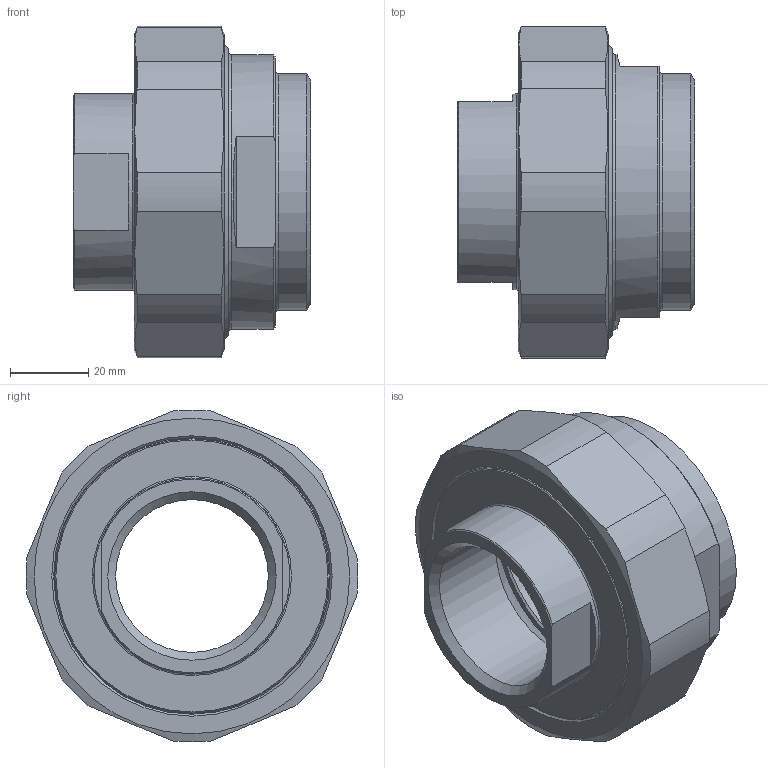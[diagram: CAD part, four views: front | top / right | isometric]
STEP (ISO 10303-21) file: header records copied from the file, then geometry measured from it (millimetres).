
FILE_DESCRIPTION(/* description */ (''),/* implementation_level */ '2;1');
FILE_NAME(/* name */ 'C:\Users\cad\Desktop\Zeichnungen neu von Ralph\Ganze Kupplungen\3D_Kupplung-R134-E-SG\3D_R134-E-SG-DN32-60.3_17101738.stp',/* time_stamp */ '2021-06-30T16:16:44+02:00',/* author */ ('cad'),/* organization */ (''),/* preprocessor_version */ 'ST-DEVELOPER v18.1',/* originating_system */ 'Autodesk Inventor 2022',/* authorisation */ '');
FILE_SCHEMA (('AUTOMOTIVE_DESIGN { 1 0 10303 214 3 1 1 }'));
Length unit declared in the file: millimetre
Products named in the file (4): 3D_R134-E-SG-DN32-60.3_17101738; 3D_R134-M-DN50_171011635; 3D_R134-SG-60.3_171011535; 3D_R134-E-DN32-DN50_171011038
Assembly tree (3 placements, depth 2):
  3D_R134-E-SG-DN32-60.3_17101738
    3D_R134-M-DN50_171011635
    3D_R134-SG-60.3_171011535
    3D_R134-E-DN32-DN50_171011038
Bounding box: 60.5 x 84.67 x 84.64 mm (x, y, z)
Volume: 113741.6 mm3; surface area: 44814.1 mm2
Topology: 3 solids, 3 shells, 79 faces, 193 edges, 127 vertices
Faces by surface type: plane 29, cone 21, cylinder 19, torus 10
Full cylindrical faces by diameter (mm): 38.952 x1, 50 x1, 55.1 x1, 55.3 x1, 60.3 x1, 70 x2, 70.5 x1, 74 x1, 74.376 x1, 75.85 x1
Entity records: 2507 total; most frequent: CARTESIAN_POINT 454, DIRECTION 450, ORIENTED_EDGE 386, AXIS2_PLACEMENT_3D 195, EDGE_CURVE 193, VERTEX_POINT 127, CIRCLE 107, EDGE_LOOP 92
